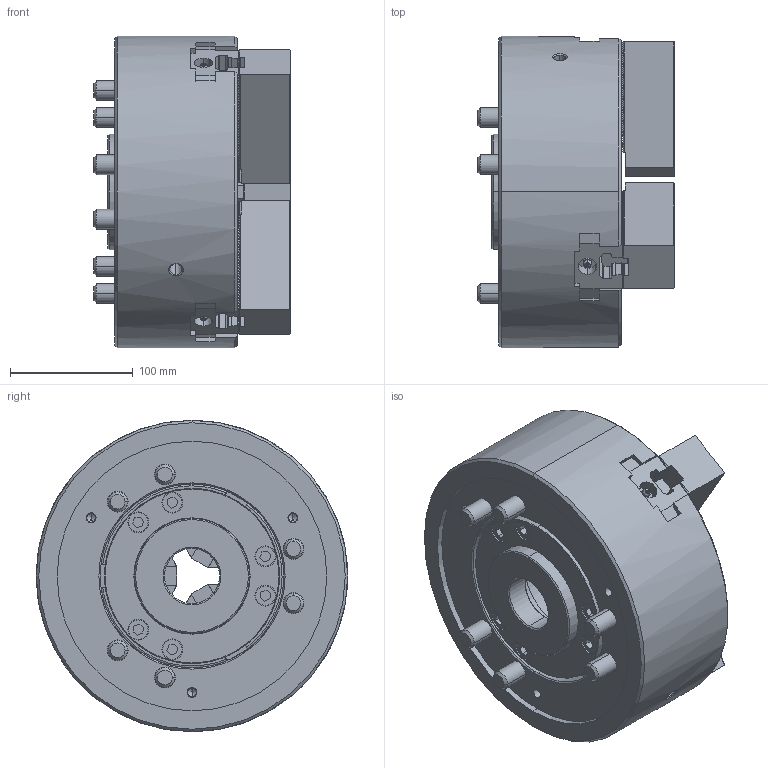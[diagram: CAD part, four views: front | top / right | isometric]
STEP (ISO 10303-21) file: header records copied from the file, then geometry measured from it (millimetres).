
FILE_DESCRIPTION (( 'STEP AP214' ), '1' );
FILE_NAME ('B-210_61P214655-6_OC.STEP', '2020-10-14T06:17:30', ( '' ), ( '' ), 'SwSTEP 2.0', 'SolidWorks 2017', '' );
FILE_SCHEMA (( 'AUTOMOTIVE_DESIGN' ));
Length unit declared in the file: millimetre
Products named in the file (5): B-210_BASE^61P214915-8_ASSY; Bアナツキ M12×30; P31633_SoftJaw; 61P417262_T-Nut; B-210_61P214655-6_OC
Assembly tree (13 placements, depth 2):
  B-210_61P214655-6_OC
    61P417262_T-Nut  x3
    P31633_SoftJaw  x3
    Bアナツキ M12×30  x6
    B-210_BASE^61P214915-8_ASSY
Bounding box: 160.2 x 254 x 254 mm (x, y, z)
Volume: 4917595.3 mm3; surface area: 443691 mm2
Topology: 13 solids, 13 shells, 3392 faces, 9587 edges, 6309 vertices
Faces by surface type: plane 2830, cylinder 250, bspline 169, cone 143
Entity records: 89941 total; most frequent: CARTESIAN_POINT 21853, ORIENTED_EDGE 13842, DIRECTION 11893, EDGE_CURVE 6921, VECTOR 5779, LINE 5779, VERTEX_POINT 4563, AXIS2_PLACEMENT_3D 3057
